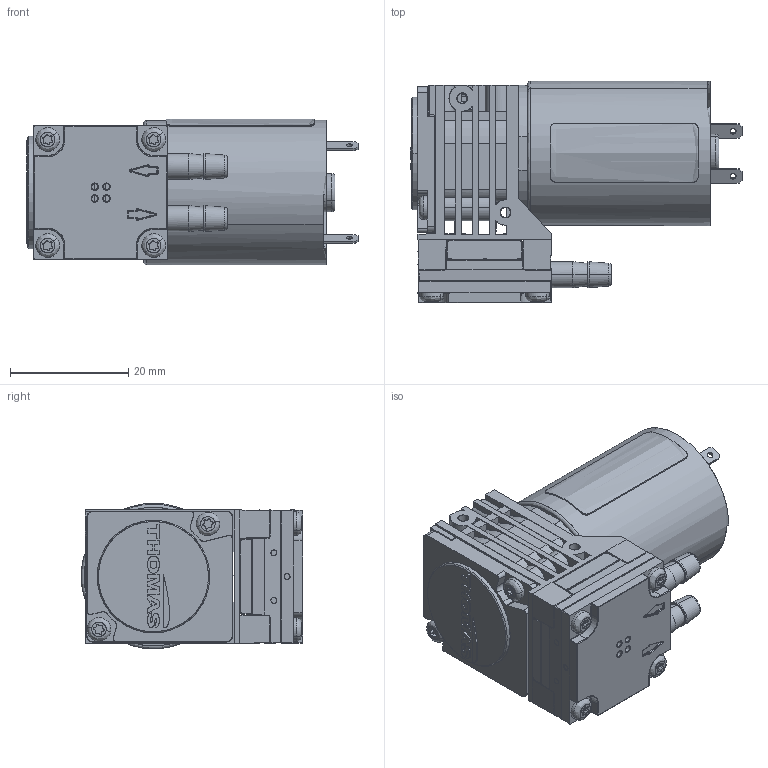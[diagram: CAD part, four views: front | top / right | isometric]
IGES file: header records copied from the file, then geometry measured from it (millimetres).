
Start section: SolidWorks IGES file using analytic representation for surfaces
Global section: file name: C:\SWPDM\GDT\Germany\600 User Files\Michael Buchberger Files\CAD_Model Homepage\1210 DC Standard Hose Barbs\1210 DC Standard Hose Barbs.IGS; native system: SolidWorks 2020; preprocessor: SolidWorks 2020; author: MXB6966; date: 220124.145736; units: millimetre
Bounding box: 56.05 x 37.4 x 24.6 mm (x, y, z)
Surface area: 9614.4 mm2 (no closed solid volume)
Topology: 0 solids, 0 shells, 1062 faces, 11130 edges, 11130 vertices
Faces by surface type: bspline 659, revolution 403
